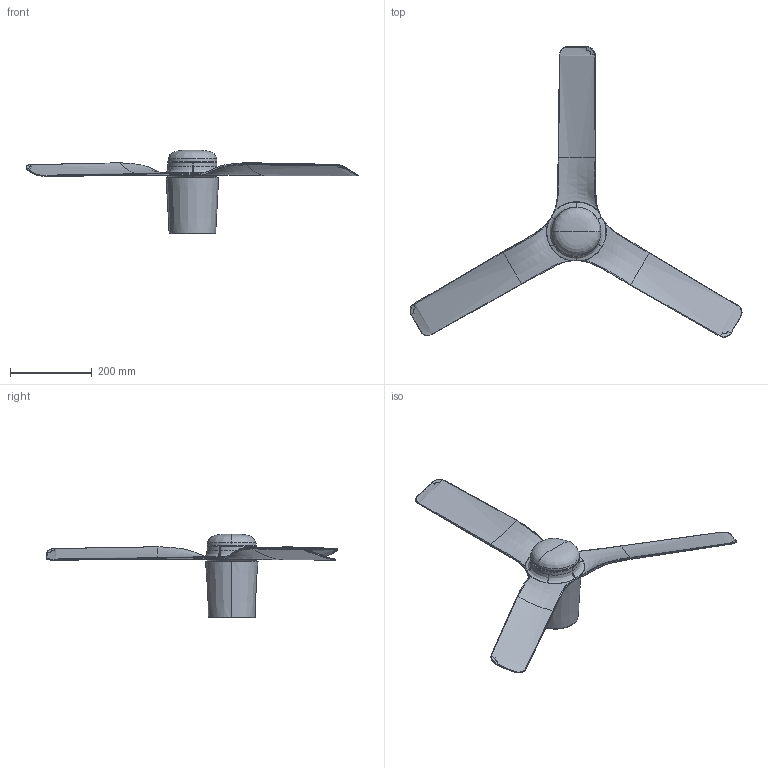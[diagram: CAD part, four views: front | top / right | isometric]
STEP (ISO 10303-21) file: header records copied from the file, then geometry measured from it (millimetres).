
FILE_DESCRIPTION(/* description */ (''),/* implementation_level */ '2;1');
FILE_NAME(/* name */ '33832.step',/* time_stamp */ '2024-04-23T13:45:24+02:00',/* author */ ('RenataManzini'),/* organization */ (''),/* preprocessor_version */ 'ST-DEVELOPER v20',/* originating_system */ 'AutoCAD Mechanical',/* authorisation */ '');
FILE_SCHEMA (('AUTOMOTIVE_DESIGN { 1 0 10303 214 3 1 1 }'));
Length unit declared in the file: millimetre
Products named in the file (4): Product; MINIPUNT_TUB_S - fan-523288-_3D_; MINIPUNT_TUB_S - MINIPUNT_dwg_900YP-522531-_3D_; MINIPUNT_TUB_S - MINIPUNT_dwg_900YP-V1-_3D_
Assembly tree (4 placements, depth 3):
  Product
    MINIPUNT_TUB_S - fan-523288-_3D_
      MINIPUNT_TUB_S - MINIPUNT_dwg_900YP-522531-_3D_
      MINIPUNT_TUB_S - MINIPUNT_dwg_900YP-V1-_3D_  x2
Bounding box: 810.75 x 709.41 x 204.18 mm (x, y, z)
Volume: 674421.6 mm3; surface area: 463427.4 mm2
Topology: 2 solids, 26 shells, 520 faces, 3985 edges, 3418 vertices
Faces by surface type: plane 303, bspline 119, cylinder 52, torus 26, cone 20
Entity records: 35452 total; most frequent: CARTESIAN_POINT 17143, ORIENTED_EDGE 3462, DIRECTION 2967, EDGE_CURVE 2675, VERTEX_POINT 2287, LINE 2153, VECTOR 2153, EDGE_LOOP 420
